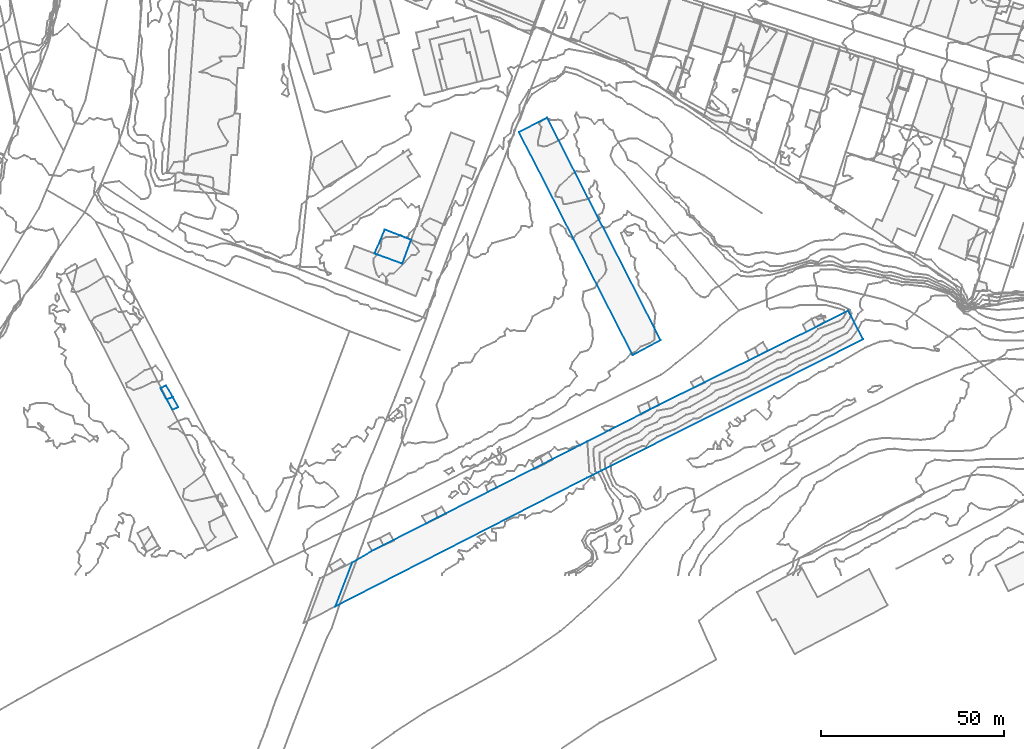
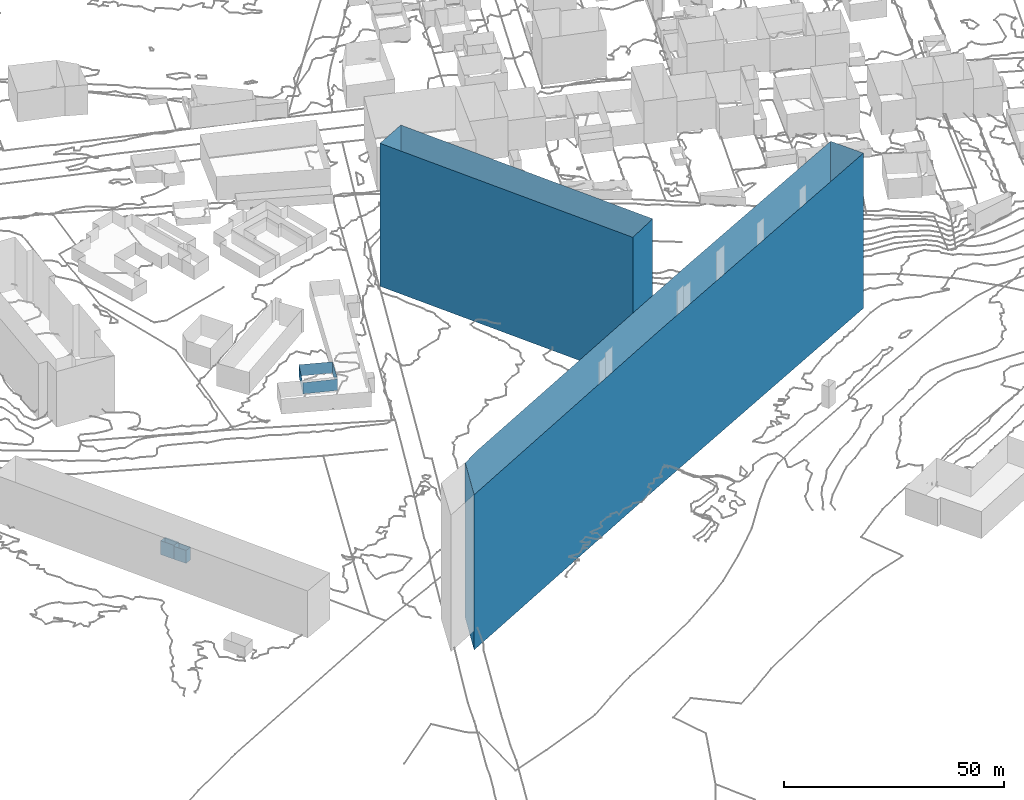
# Not in any storey, part 36 of 419: 5 walls.
"""IFC2X3 model written with IfcOpenShell, lengths in metres."""

from ifc_helpers import new_model, si_unit, frame, origin_with_axes, place, context, subcontext, project, faceted_brep, element, save


model = new_model("IFC2X3")

# Units and contexts
model_context = context("Model", 3, precision=1e-05, world=origin_with_axes())
body_context = subcontext(model_context, "Body", "Model", "MODEL_VIEW")
ifc_project = project(units=[si_unit("AREAUNIT", "SQUARE_METRE"), si_unit("LENGTHUNIT", "METRE")], contexts=[model_context])

# Walls
wall_1_placement = place(None, frame((700.3920204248, 49.5976909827, 72.1448019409), z_axis=(0.0, 0.0, 1.0), x_axis=(1.0, 0.0, 0.0)))
element("IfcWall", 1, at=wall_1_placement, Name="Mur 0", context=body_context, shape_type="Brep", body=[
    faceted_brep([(1.7, -3.1000000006, 3.8551980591), (0.0, 0.0, 3.8551980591), (1.7, -3.1000000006, 0.0), (0.0, 0.0, 0.0), (3.3999999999, -2.5, 3.8551980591), (3.3999999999, -2.5, 0.0), (1.6, 0.7000000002, 3.8551980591), (1.6, 0.7000000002, 0.0)], [[[0, 1, 2]], [[2, 1, 3]], [[4, 0, 5]], [[5, 0, 2]], [[1, 6, 3]], [[3, 6, 7]], [[6, 4, 7]], [[7, 4, 5]]]),
])
wall_2_placement = place(None, frame((702.0920204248, 46.4976909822, 72.1290023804), z_axis=(0.0, 0.0, 1.0), x_axis=(1.0, 0.0, 0.0)))
element("IfcWall", 2, at=wall_2_placement, Name="Mur 0", context=body_context, shape_type="Brep", body=[
    faceted_brep([(1.6, -2.7999999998, 3.5709976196), (0.0, 0.0, 3.5709976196), (1.6, -2.7999999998, 0.0), (0.0, 0.0, 0.0), (3.2, -2.0999999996, 3.5709976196), (3.2, -2.0999999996, 0.0), (1.7, 0.6000000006, 3.5709976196), (1.7, 0.6000000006, 0.0)], [[[0, 1, 2]], [[2, 1, 3]], [[4, 0, 5]], [[5, 0, 2]], [[1, 6, 3]], [[3, 6, 7]], [[6, 4, 7]], [[7, 4, 5]]]),
])
wall_3_placement = place(None, frame((758.8920204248, 86.2976909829, 73.9479999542), z_axis=(0.0, 0.0, 1.0), x_axis=(1.0, 0.0, 0.0)))
element("IfcWall", 3, at=wall_3_placement, Name="Mur 0", context=body_context, shape_type="Brep", body=[
    faceted_brep([(7.6, -2.7000000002, 3.1520000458), (0.0, 0.0, 3.1520000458), (7.6, -2.7000000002, 0.0), (0.0, 0.0, 0.0), (10.0, 3.7999999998, 3.1520000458), (10.0, 3.7999999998, 0.0), (2.7999999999, 6.5999999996, 3.1520000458), (2.7999999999, 6.5999999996, 0.0)], [[[0, 1, 2]], [[2, 1, 3]], [[4, 0, 5]], [[5, 0, 2]], [[1, 6, 3]], [[3, 6, 7]], [[6, 4, 7]], [[7, 4, 5]]]),
])
wall_4_placement = place(None, frame((748.1920204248, -10.1023090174, 65.1494976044), z_axis=(0.0, 0.0, 1.0), x_axis=(1.0, 0.0, 0.0)))
element("IfcWall", 4, at=wall_4_placement, Name="Mur 0", context=body_context, shape_type="Brep", body=[
    faceted_brep([(0.0, 0.0, 43.0505023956), (4.6, 12.0, 43.0505023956), (0.0, 0.0, 0.0), (4.6, 12.0, 0.0), (68.8, 35.2000000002, 43.0505023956), (68.8, 35.2000000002, 0.0), (144.3, 73.0, 43.0505023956), (144.3, 73.0, 0.0), (140.2000000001, 80.7999999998, 43.0505023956), (140.2000000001, 80.7999999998, 0.0), (86.1, 53.9000000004, 43.0505023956), (86.1, 53.9000000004, 0.0), (10.1, 15.2000000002, 43.0505023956), (10.1, 15.2000000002, 0.0)], [[[0, 1, 2]], [[2, 1, 3]], [[4, 0, 5]], [[5, 0, 2]], [[6, 4, 7]], [[7, 4, 5]], [[8, 6, 9]], [[9, 6, 7]], [[10, 8, 11]], [[11, 8, 9]], [[1, 12, 3]], [[3, 12, 13]], [[12, 10, 13]], [[13, 10, 11]]]),
])
wall_5_placement = place(None, frame((798.3920204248, 119.5976909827, 69.8219974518), z_axis=(0.0, 0.0, 1.0), x_axis=(1.0, 0.0, 0.0)))
element("IfcWall", 5, at=wall_5_placement, Name="Mur 0", context=body_context, shape_type="Brep", body=[
    faceted_brep([(38.7, -56.9000000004, 39.6780025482), (31.1, -61.0, 39.6780025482), (38.7, -56.9000000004, 0.0), (31.1, -61.0, 0.0), (7.7, 3.8999999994, 39.6780025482), (7.7, 3.8999999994, 0.0), (0.0, 0.0, 39.6780025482), (0.0, 0.0, 0.0)], [[[0, 1, 2]], [[2, 1, 3]], [[4, 0, 5]], [[5, 0, 2]], [[1, 6, 3]], [[3, 6, 7]], [[6, 4, 7]], [[7, 4, 5]]]),
])

save(model, "model.ifc")
